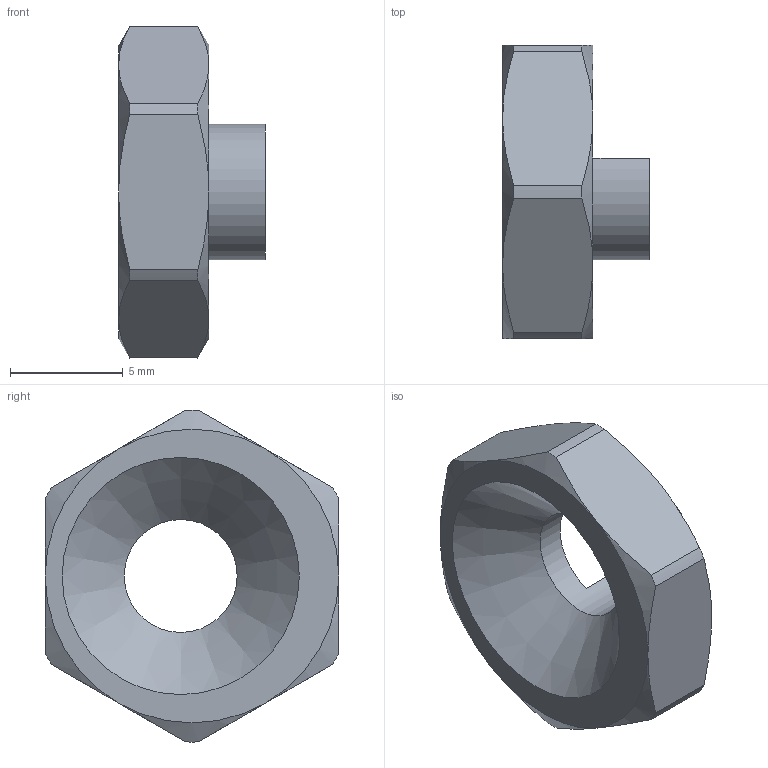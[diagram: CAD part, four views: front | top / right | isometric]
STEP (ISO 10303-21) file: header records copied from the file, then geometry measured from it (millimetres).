
FILE_DESCRIPTION(/* description */ ('STEP AP214'),/* implementation_level */ '2;1');
FILE_NAME(/* name */ 'Mounting Accessory GN 753.2-5-6-4-E-NI',/* time_stamp */ '2024-12-09T14:00:05+01:00',/* author */ ('License CC BY-ND 4.0'),/* organization */ ('CADENAS'),/* preprocessor_version */ 'ST-DEVELOPER v19.3',/* originating_system */ 'PARTsolutions',/* authorisation */ ' ');
FILE_SCHEMA (('AUTOMOTIVE_DESIGN {1 0 10303 214 3 1 1}'));
Length unit declared in the file: millimetre
Products named in the file (1): Mounting Accessory GN 753.2-5-6-4-E-NI
Bounding box: 6.5 x 13 x 14.7 mm (x, y, z)
Volume: 440.2 mm3; surface area: 522.3 mm2
Topology: 1 solids, 1 shells, 32 faces, 77 edges, 47 vertices
Faces by surface type: cone 13, plane 11, cylinder 8
Full cylindrical faces by diameter (mm): 5 x1
Entity records: 966 total; most frequent: CARTESIAN_POINT 225, ORIENTED_EDGE 148, DIRECTION 146, EDGE_CURVE 74, AXIS2_PLACEMENT_3D 63, VERTEX_POINT 46, EDGE_LOOP 36, FACE_BOUND 36
